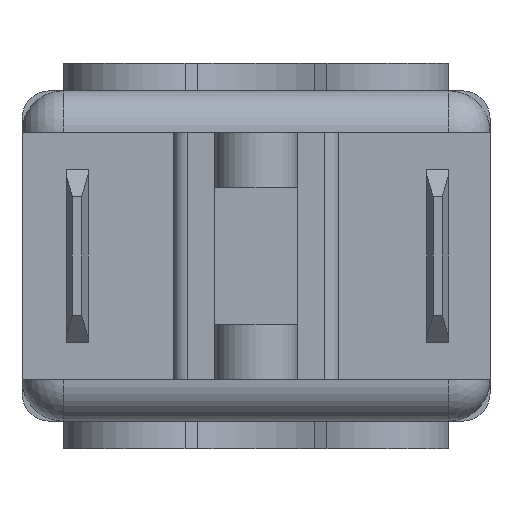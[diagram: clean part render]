
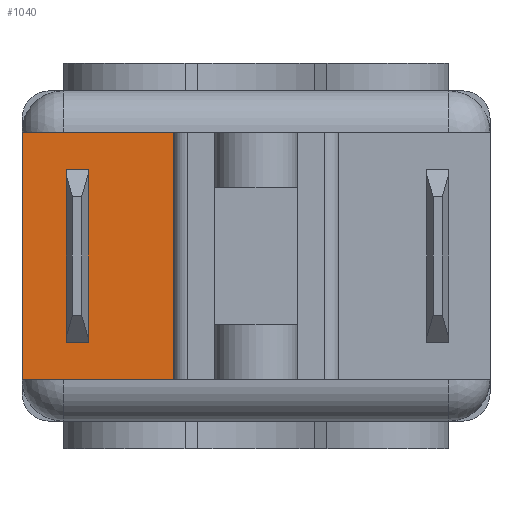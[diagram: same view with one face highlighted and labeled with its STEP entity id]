
A CAD part, front view. The second image highlights one B-rep face of the part: STEP entity #1040.
In plain terms, the highlighted planar face has unit normal (0, -1, 0).
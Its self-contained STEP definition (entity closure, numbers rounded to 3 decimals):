
#223=DIRECTION('',(-1.,0.,0.));
#224=VECTOR('',#223,5.5);
#225=CARTESIAN_POINT('',(-3.,-9.,4.5));
#226=LINE('',#225,#224);
#262=DIRECTION('',(-1.,0.,0.));
#263=VECTOR('',#262,5.5);
#264=CARTESIAN_POINT('',(-3.,-9.,-4.5));
#265=LINE('',#264,#263);
#266=DIRECTION('',(0.,0.,-1.));
#267=VECTOR('',#266,9.);
#268=CARTESIAN_POINT('',(-3.,-9.,4.5));
#269=LINE('',#268,#267);
#274=DIRECTION('',(0.,0.,-1.));
#275=VECTOR('',#274,9.);
#276=CARTESIAN_POINT('',(-8.5,-9.,4.5));
#277=LINE('',#276,#275);
#647=CARTESIAN_POINT('',(-8.5,-9.,-4.5));
#648=VERTEX_POINT('',#647);
#649=CARTESIAN_POINT('',(-3.,-9.,-4.5));
#650=VERTEX_POINT('',#649);
#661=CARTESIAN_POINT('',(-3.,-9.,4.5));
#662=VERTEX_POINT('',#661);
#663=CARTESIAN_POINT('',(-8.5,-9.,4.5));
#664=VERTEX_POINT('',#663);
#1028=CARTESIAN_POINT('',(-8.5,-9.,-6.));
#1029=DIRECTION('',(0.,-1.,0.));
#1030=DIRECTION('',(1.,0.,0.));
#1031=AXIS2_PLACEMENT_3D('',#1028,#1029,#1030);
#1032=PLANE('',#1031);
#1033=ORIENTED_EDGE('',*,*,#796,.T.);
#1035=ORIENTED_EDGE('',*,*,#1034,.F.);
#1036=ORIENTED_EDGE('',*,*,#966,.F.);
#1037=ORIENTED_EDGE('',*,*,#1023,.T.);
#1038=EDGE_LOOP('',(#1033,#1035,#1036,#1037));
#1039=FACE_OUTER_BOUND('',#1038,.F.);
#1040=ADVANCED_FACE('',(#1039),#1032,.T.);
#796=EDGE_CURVE('',#650,#648,#265,.T.);
#966=EDGE_CURVE('',#662,#664,#226,.T.);
#1023=EDGE_CURVE('',#662,#650,#269,.T.);
#1034=EDGE_CURVE('',#664,#648,#277,.T.);
